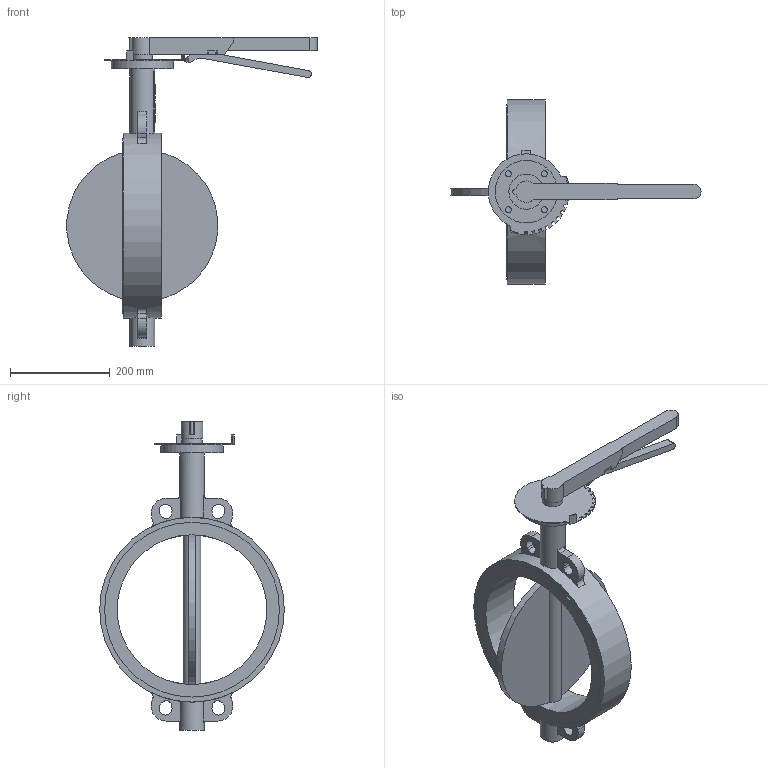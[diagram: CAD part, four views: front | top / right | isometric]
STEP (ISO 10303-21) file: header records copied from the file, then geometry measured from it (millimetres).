
FILE_DESCRIPTION(('STEP AP203'), '1');
FILE_NAME('青蜮铕 017WDN300', '', ('UNSPECIFIED'), ('UNSPECIFIED'), 'ASCON STEP Converter 1.6', 'ASCON Math Kernel', '');
FILE_SCHEMA(('CONFIG_CONTROL_DESIGN'));
Length unit declared in the file: millimetre
Bounding box: 500.97 x 370 x 619 mm (x, y, z)
Volume: 475921.3 mm3; surface area: 584856.7 mm2
Topology: 1 solids, 2 shells, 805 faces, 2378 edges, 1539 vertices
Faces by surface type: cylinder 555, plane 246, torus 4
Full cylindrical faces by diameter (mm): 12 x4, 31.6 x1, 41 x1, 50 x2, 70 x1, 125 x1, 300 x1, 350 x2, 370 x1
Entity records: 35000 total; most frequent: CARTESIAN_POINT 5961, DIRECTION 5125, ORIENTED_EDGE 4667, EDGE_CURVE 2365, AXIS2_PLACEMENT_3D 1980, VERTEX_POINT 1539, CIRCLE 1174, LINE 1165
